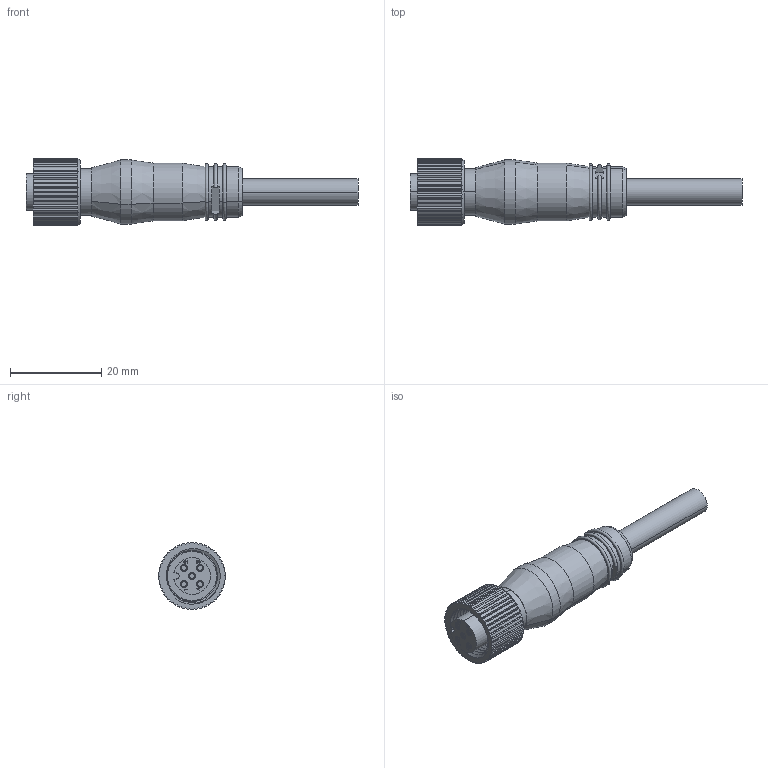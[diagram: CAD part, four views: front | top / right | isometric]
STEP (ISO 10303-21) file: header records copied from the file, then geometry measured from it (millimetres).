
FILE_DESCRIPTION (( 'STEP AP214' ), '1' );
FILE_NAME ('MDC-5FP-ZZ.STEP', '2011-04-03T19:57:01', ( 'Bruce' ), ( 'HP' ), 'SwSTEP 2.0', 'SolidWorks 2011', '' );
FILE_SCHEMA (( 'AUTOMOTIVE_DESIGN' ));
Length unit declared in the file: millimetre
Products named in the file (1): MDC-5FP-ZZ
Bounding box: 72.85 x 14.65 x 14.66 mm (x, y, z)
Volume: 8110 mm3; surface area: 4619 mm2
Topology: 2 solids, 2 shells, 323 faces, 905 edges, 599 vertices
Faces by surface type: plane 167, cylinder 115, bspline 23, cone 12, torus 6
Entity records: 16172 total; most frequent: CARTESIAN_POINT 4526, ORIENTED_EDGE 1810, DIRECTION 1571, EDGE_CURVE 905, VERTEX_POINT 599, AXIS2_PLACEMENT_3D 552, VECTOR 467, LINE 467
